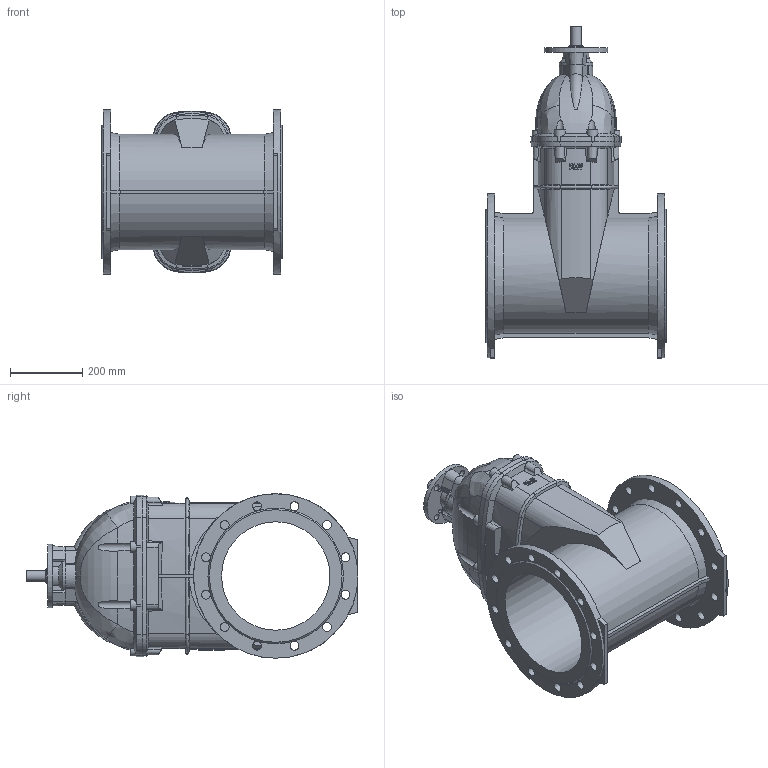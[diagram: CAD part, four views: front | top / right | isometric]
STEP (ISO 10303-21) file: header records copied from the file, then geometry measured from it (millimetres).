
FILE_DESCRIPTION (( 'STEP AP203' ), '1' );
FILE_NAME ('O_15_72_DN300_00_step.STEP', '2015-05-21T01:59:33', ( '' ), ( '' ), 'SwSTEP 2.0', 'SolidWorks 2012', '' );
FILE_SCHEMA (( 'CONFIG_CONTROL_DESIGN' ));
Length unit declared in the file: millimetre
Products named in the file (1): O_15_72_DN300_00_step
Bounding box: 500 x 918.5 x 455 mm (x, y, z)
Volume: 41032499 mm3; surface area: 1969844.8 mm2
Topology: 1 solids, 1 shells, 411 faces, 1123 edges, 723 vertices
Faces by surface type: cylinder 118, plane 113, cone 98, bspline 62, torus 20
Full cylindrical faces by diameter (mm): 12 x4, 18 x4, 24.5 x24, 30 x1, 40 x1, 175 x1, 300 x1, 455 x2
Entity records: 16685 total; most frequent: CARTESIAN_POINT 7298, ORIENTED_EDGE 2096, DIRECTION 1660, EDGE_CURVE 1048, AXIS2_PLACEMENT_3D 708, VERTEX_POINT 690, EDGE_LOOP 528, FACE_OUTER_BOUND 449
